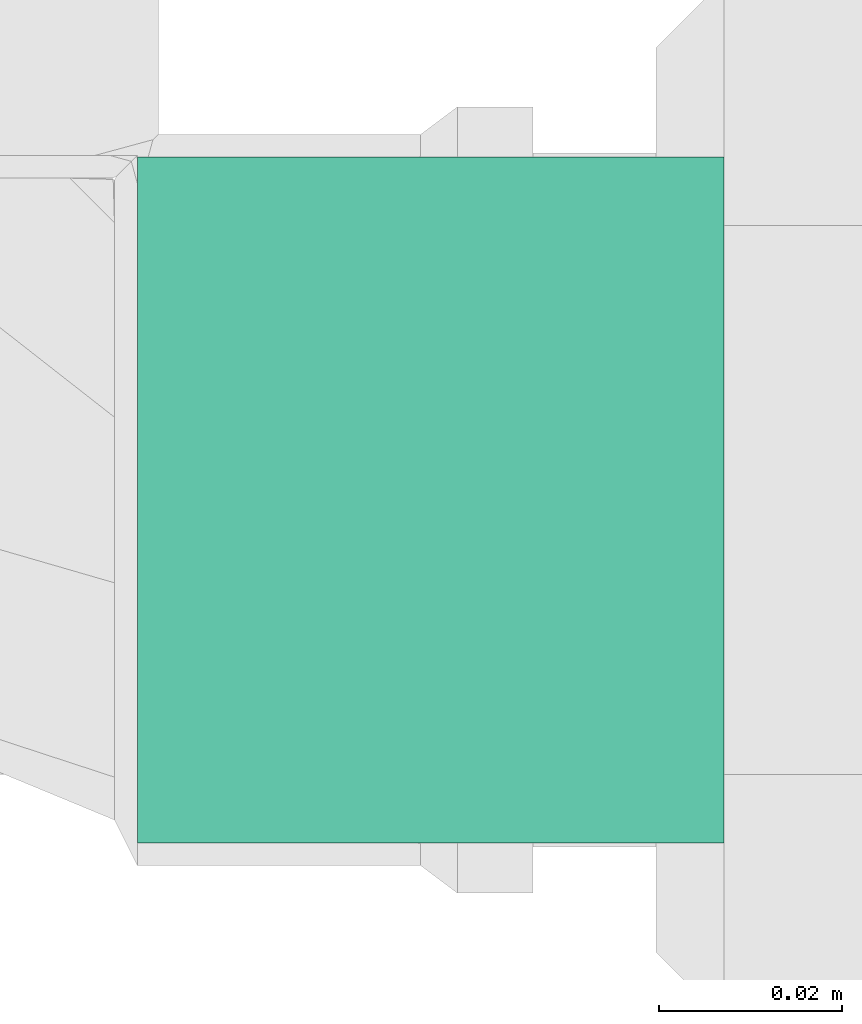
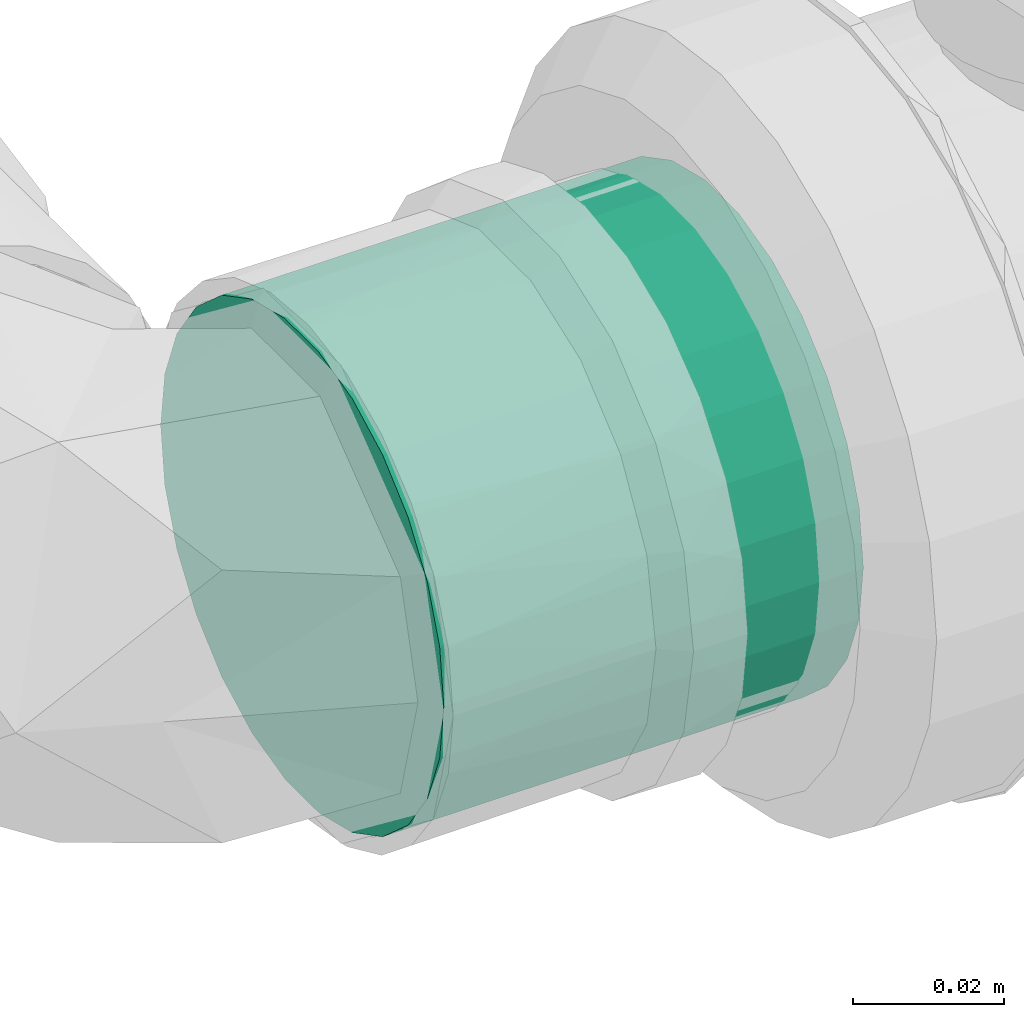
# One storey, part 46 of 166: 1 flow segment.
"""IFC2X3 building model written with IfcOpenShell, lengths in metres."""

from ifc_helpers import new_model, entity, si_unit, converted_unit, direction, frame, frame_2d, origin, place, context, subcontext, project, spatial, circle, extrude, type_object, element, save


model = new_model("IFC2X3")

# Units and contexts
model_context = context("Model", 3, precision=1e-05, world=origin(), true_north=direction((6.123233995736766e-17, 1.0)))
body_context = subcontext(model_context, "Body", "Model", "MODEL_VIEW")
ifc_project = project(units=[si_unit("LENGTHUNIT", "METRE"), converted_unit("PLANEANGLEUNIT", "DEGREE", entity("IfcPlaneAngleMeasure", 0.017453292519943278), si_unit("PLANEANGLEUNIT", "RADIAN"), dimensions=[0, 0, 0, 0, 0, 0, 0]), si_unit("AREAUNIT", "SQUARE_METRE")], contexts=[model_context])

# Site, building, storey
site_placement = place(None, origin())
site = spatial("IfcSite", under=ifc_project, at=site_placement, Name="Default", CompositionType="ELEMENT")
building_placement = place(site_placement, origin())
building = spatial("IfcBuilding", under=site, at=building_placement, Name="CASA DE ACOLHIDA PARA IDOSOS", CompositionType="ELEMENT")
storey_placement = place(building_placement, frame((0.0, 0.0, -1.7499999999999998)))
storey = spatial("IfcBuildingStorey", under=building, at=storey_placement, Name="IMPLANTAÇÃO DRENAGEM", CompositionType="ELEMENT", Elevation=-1.7499999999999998)

# Flow segment
pipe_segment_type = type_object("IfcPipeSegmentType", Name="Tipos de tubos:AF_Tubo Branco Roscável", PredefinedType="NOTDEFINED")
flow_segment_placement = place(storey_placement, origin())
element("IfcFlowSegment", 1, at=flow_segment_placement, inside=storey, type_object=pipe_segment_type, Name="Tipos de tubos:AF_Tubo Branco Roscável", ObjectType="Tipos de tubos:AF_Tubo Branco Roscável", context=body_context, shape_type="SweptSolid", body=[
    extrude(circle(Radius=0.037500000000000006, at=frame_2d((-2.707167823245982e-16, 0.0), x_axis=(1.0, 0.0))), frame((-64.6095805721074, -2.237378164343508, 0.13343317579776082), z_axis=(1.0, 0.0, 0.0), x_axis=(0.0, 1.0, 0.0)), (0.0, 0.0, 1.0), 0.06415465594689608),
])

save(model, "model.ifc")
